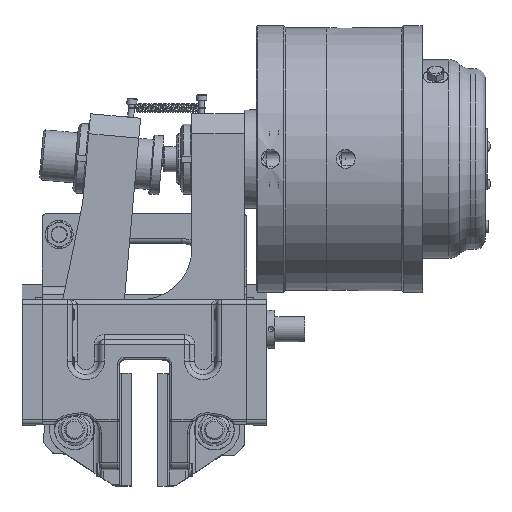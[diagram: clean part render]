
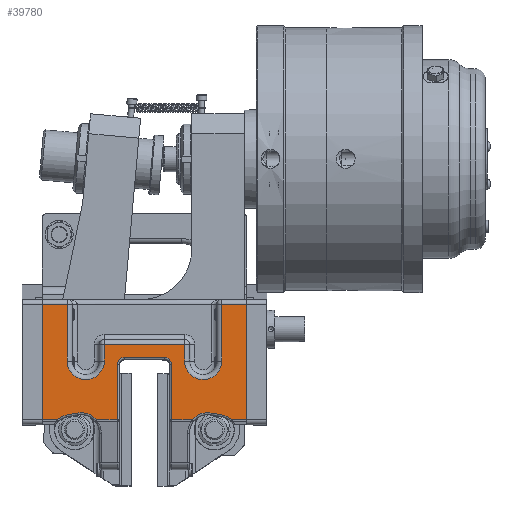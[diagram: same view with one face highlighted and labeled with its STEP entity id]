
A CAD part, top view. The second image highlights one B-rep face of the part: STEP entity #39780.
In plain terms, the highlighted planar face has unit normal (0, 0, 1).
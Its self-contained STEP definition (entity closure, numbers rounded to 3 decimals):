
#5312=LINE('',#69459,#7854);
#5313=LINE('',#69533,#7855);
#5315=LINE('',#69538,#7857);
#5316=LINE('',#69540,#7858);
#5317=LINE('',#69544,#7859);
#5318=LINE('',#69548,#7860);
#5319=LINE('',#69550,#7861);
#5320=LINE('',#69554,#7862);
#5321=LINE('',#69558,#7863);
#5322=LINE('',#69560,#7864);
#5323=LINE('',#69562,#7865);
#5324=LINE('',#69564,#7866);
#5325=LINE('',#69568,#7867);
#5326=LINE('',#69570,#7868);
#5327=LINE('',#69572,#7869);
#5328=LINE('',#69576,#7870);
#5329=LINE('',#69578,#7871);
#5330=LINE('',#69579,#7872);
#7854=VECTOR('',#50198,10.);
#7855=VECTOR('',#50215,10.);
#7857=VECTOR('',#50221,10.);
#7858=VECTOR('',#50222,10.);
#7859=VECTOR('',#50225,10.);
#7860=VECTOR('',#50228,10.);
#7861=VECTOR('',#50229,10.);
#7862=VECTOR('',#50232,10.);
#7863=VECTOR('',#50235,10.);
#7864=VECTOR('',#50236,10.);
#7865=VECTOR('',#50237,5.);
#7866=VECTOR('',#50238,10.);
#7867=VECTOR('',#50241,10.);
#7868=VECTOR('',#50242,10.);
#7869=VECTOR('',#50243,10.);
#7870=VECTOR('',#50246,10.);
#7871=VECTOR('',#50247,5.);
#7872=VECTOR('',#50248,10.);
#10124=FACE_OUTER_BOUND('',#12432,.T.);
#12432=EDGE_LOOP('',(#30587,#30588,#30589,#30590,#30591,#30592,#30593,#30594,
#30595,#30596,#30597,#30598,#30599,#30600,#30601,#30602,#30603,#30604,#30605,
#30606,#30607,#30608,#30609,#30610,#30611,#30612));
#14979=CIRCLE('',#42879,20.);
#14983=CIRCLE('',#42885,18.);
#14986=CIRCLE('',#42892,7.);
#14987=CIRCLE('',#42893,7.);
#14988=CIRCLE('',#42894,20.);
#14989=CIRCLE('',#42895,18.);
#14990=CIRCLE('',#42896,18.5);
#14991=CIRCLE('',#42897,18.5);
#18052=VERTEX_POINT('',#69437);
#18054=VERTEX_POINT('',#69449);
#18056=VERTEX_POINT('',#69455);
#18058=VERTEX_POINT('',#69461);
#18064=VERTEX_POINT('',#69532);
#18065=VERTEX_POINT('',#69537);
#18066=VERTEX_POINT('',#69539);
#18067=VERTEX_POINT('',#69541);
#18068=VERTEX_POINT('',#69543);
#18069=VERTEX_POINT('',#69545);
#18070=VERTEX_POINT('',#69547);
#18071=VERTEX_POINT('',#69549);
#18072=VERTEX_POINT('',#69551);
#18073=VERTEX_POINT('',#69553);
#18074=VERTEX_POINT('',#69555);
#18075=VERTEX_POINT('',#69557);
#18076=VERTEX_POINT('',#69559);
#18077=VERTEX_POINT('',#69561);
#18078=VERTEX_POINT('',#69563);
#18079=VERTEX_POINT('',#69565);
#18080=VERTEX_POINT('',#69567);
#18081=VERTEX_POINT('',#69569);
#18082=VERTEX_POINT('',#69571);
#18083=VERTEX_POINT('',#69573);
#18084=VERTEX_POINT('',#69575);
#18085=VERTEX_POINT('',#69577);
#22718=EDGE_CURVE('',#18052,#18054,#14979,.T.);
#22721=EDGE_CURVE('',#18054,#18056,#5312,.T.);
#22724=EDGE_CURVE('',#18056,#18058,#14983,.T.);
#22731=EDGE_CURVE('',#18058,#18064,#5313,.T.);
#22734=EDGE_CURVE('',#18065,#18052,#5315,.T.);
#22735=EDGE_CURVE('',#18066,#18065,#5316,.T.);
#22736=EDGE_CURVE('',#18067,#18066,#14986,.T.);
#22737=EDGE_CURVE('',#18068,#18067,#5317,.T.);
#22738=EDGE_CURVE('',#18069,#18068,#14987,.T.);
#22739=EDGE_CURVE('',#18070,#18069,#5318,.T.);
#22740=EDGE_CURVE('',#18071,#18070,#5319,.T.);
#22741=EDGE_CURVE('',#18072,#18071,#14988,.T.);
#22742=EDGE_CURVE('',#18073,#18072,#5320,.T.);
#22743=EDGE_CURVE('',#18074,#18073,#14989,.T.);
#22744=EDGE_CURVE('',#18075,#18074,#5321,.T.);
#22745=EDGE_CURVE('',#18076,#18075,#5322,.T.);
#22746=EDGE_CURVE('',#18077,#18076,#5323,.T.);
#22747=EDGE_CURVE('',#18078,#18077,#5324,.T.);
#22748=EDGE_CURVE('',#18079,#18078,#14990,.T.);
#22749=EDGE_CURVE('',#18080,#18079,#5325,.T.);
#22750=EDGE_CURVE('',#18081,#18080,#5326,.T.);
#22751=EDGE_CURVE('',#18082,#18081,#5327,.T.);
#22752=EDGE_CURVE('',#18083,#18082,#14991,.T.);
#22753=EDGE_CURVE('',#18084,#18083,#5328,.T.);
#22754=EDGE_CURVE('',#18085,#18084,#5329,.T.);
#22755=EDGE_CURVE('',#18064,#18085,#5330,.T.);
#30587=ORIENTED_EDGE('',*,*,#22724,.F.);
#30588=ORIENTED_EDGE('',*,*,#22721,.F.);
#30589=ORIENTED_EDGE('',*,*,#22718,.F.);
#30590=ORIENTED_EDGE('',*,*,#22734,.F.);
#30591=ORIENTED_EDGE('',*,*,#22735,.F.);
#30592=ORIENTED_EDGE('',*,*,#22736,.F.);
#30593=ORIENTED_EDGE('',*,*,#22737,.F.);
#30594=ORIENTED_EDGE('',*,*,#22738,.F.);
#30595=ORIENTED_EDGE('',*,*,#22739,.F.);
#30596=ORIENTED_EDGE('',*,*,#22740,.F.);
#30597=ORIENTED_EDGE('',*,*,#22741,.F.);
#30598=ORIENTED_EDGE('',*,*,#22742,.F.);
#30599=ORIENTED_EDGE('',*,*,#22743,.F.);
#30600=ORIENTED_EDGE('',*,*,#22744,.F.);
#30601=ORIENTED_EDGE('',*,*,#22745,.F.);
#30602=ORIENTED_EDGE('',*,*,#22746,.F.);
#30603=ORIENTED_EDGE('',*,*,#22747,.F.);
#30604=ORIENTED_EDGE('',*,*,#22748,.F.);
#30605=ORIENTED_EDGE('',*,*,#22749,.F.);
#30606=ORIENTED_EDGE('',*,*,#22750,.F.);
#30607=ORIENTED_EDGE('',*,*,#22751,.F.);
#30608=ORIENTED_EDGE('',*,*,#22752,.F.);
#30609=ORIENTED_EDGE('',*,*,#22753,.F.);
#30610=ORIENTED_EDGE('',*,*,#22754,.F.);
#30611=ORIENTED_EDGE('',*,*,#22755,.F.);
#30612=ORIENTED_EDGE('',*,*,#22731,.F.);
#38314=PLANE('',#42891);
#39780=ADVANCED_FACE('',(#10124),#38314,.T.);
#42879=AXIS2_PLACEMENT_3D('',#69453,#50191,#50192);
#42885=AXIS2_PLACEMENT_3D('',#69465,#50205,#50206);
#42891=AXIS2_PLACEMENT_3D('',#69536,#50219,#50220);
#42892=AXIS2_PLACEMENT_3D('',#69542,#50223,#50224);
#42893=AXIS2_PLACEMENT_3D('',#69546,#50226,#50227);
#42894=AXIS2_PLACEMENT_3D('',#69552,#50230,#50231);
#42895=AXIS2_PLACEMENT_3D('',#69556,#50233,#50234);
#42896=AXIS2_PLACEMENT_3D('',#69566,#50239,#50240);
#42897=AXIS2_PLACEMENT_3D('',#69574,#50244,#50245);
#50191=DIRECTION('center_axis',(0.,0.,
1.));
#50192=DIRECTION('ref_axis',(0.29,0.957,0.));
#50198=DIRECTION('',(-0.985,-0.174,0.));
#50205=DIRECTION('center_axis',(0.,0.,
1.));
#50206=DIRECTION('ref_axis',(-0.388,0.922,0.));
#50215=DIRECTION('',(-1.,0.,0.));
#50219=DIRECTION('center_axis',(0.,0.,
1.));
#50220=DIRECTION('ref_axis',(1.,0.,0.));
#50221=DIRECTION('',(-1.,0.,0.));
#50222=DIRECTION('',(0.,-1.,0.));
#50223=DIRECTION('center_axis',(0.,0.,
1.));
#50224=DIRECTION('ref_axis',(-0.707,0.707,0.));
#50225=DIRECTION('',(-1.,0.,0.));
#50226=DIRECTION('center_axis',(0.,0.,
1.));
#50227=DIRECTION('ref_axis',(0.707,0.707,0.));
#50228=DIRECTION('',(0.,1.,0.));
#50229=DIRECTION('',(-1.,0.,0.));
#50230=DIRECTION('center_axis',(0.,0.,
1.));
#50231=DIRECTION('ref_axis',(-0.29,0.957,0.));
#50232=DIRECTION('',(-0.985,0.174,0.));
#50233=DIRECTION('center_axis',(0.,0.,
1.));
#50234=DIRECTION('ref_axis',(0.388,0.922,0.));
#50235=DIRECTION('',(-1.,0.,0.));
#50236=DIRECTION('',(0.,-1.,0.));
#50237=DIRECTION('',(1.,0.,0.));
#50238=DIRECTION('',(0.,1.,0.));
#50239=DIRECTION('center_axis',(0.,0.,
1.));
#50240=DIRECTION('ref_axis',(0.,-1.,0.));
#50241=DIRECTION('',(0.,-1.,0.));
#50242=DIRECTION('',(1.,0.,0.));
#50243=DIRECTION('',(0.,1.,0.));
#50244=DIRECTION('center_axis',(0.,0.,
1.));
#50245=DIRECTION('ref_axis',(0.,-1.,0.));
#50246=DIRECTION('',(0.,-1.,0.));
#50247=DIRECTION('',(1.,0.,0.));
#50248=DIRECTION('',(0.,1.,0.));
#69437=CARTESIAN_POINT('',(-47.801,50.,285.));
#69449=CARTESIAN_POINT('',(-66.478,56.695,285.));
#69453=CARTESIAN_POINT('Origin',(-63.,37.,285.));
#69455=CARTESIAN_POINT('',(-77.63,54.726,285.));
#69459=CARTESIAN_POINT('',(-36.958,61.909,285.));
#69461=CARTESIAN_POINT('',(-86.95,50.,285.));
#69465=CARTESIAN_POINT('Origin',(-74.5,37.,285.));
#69532=CARTESIAN_POINT('',(-102.,50.,285.));
#69533=CARTESIAN_POINT('',(-102.,50.,285.));
#69536=CARTESIAN_POINT('Origin',(0.,90.129,
285.));
#69537=CARTESIAN_POINT('',(-27.,50.,285.));
#69538=CARTESIAN_POINT('',(-102.,50.,285.));
#69539=CARTESIAN_POINT('',(-27.,105.,285.));
#69540=CARTESIAN_POINT('',(-27.,45.065,285.));
#69541=CARTESIAN_POINT('',(-20.,112.,285.));
#69542=CARTESIAN_POINT('Origin',(-20.,105.,285.));
#69543=CARTESIAN_POINT('',(20.,112.,285.));
#69544=CARTESIAN_POINT('',(-10.,112.,285.));
#69545=CARTESIAN_POINT('',(27.,105.,285.));
#69546=CARTESIAN_POINT('Origin',(20.,105.,285.));
#69547=CARTESIAN_POINT('',(27.,50.,285.));
#69548=CARTESIAN_POINT('',(27.,97.565,285.));
#69549=CARTESIAN_POINT('',(47.801,50.,285.));
#69550=CARTESIAN_POINT('',(-102.,50.,285.));
#69551=CARTESIAN_POINT('',(66.478,56.695,285.));
#69552=CARTESIAN_POINT('Origin',(63.,37.,285.));
#69553=CARTESIAN_POINT('',(77.63,54.726,285.));
#69554=CARTESIAN_POINT('',(31.381,62.893,285.));
#69555=CARTESIAN_POINT('',(86.95,50.,285.));
#69556=CARTESIAN_POINT('Origin',(74.5,37.,285.));
#69557=CARTESIAN_POINT('',(102.,50.,285.));
#69558=CARTESIAN_POINT('',(-102.,50.,285.));
#69559=CARTESIAN_POINT('',(102.,165.,285.));
#69560=CARTESIAN_POINT('',(102.,165.,285.));
#69561=CARTESIAN_POINT('',(77.,165.,285.));
#69562=CARTESIAN_POINT('',(0.,165.,285.));
#69563=CARTESIAN_POINT('',(77.,108.5,285.));
#69564=CARTESIAN_POINT('',(77.,127.565,285.));
#69565=CARTESIAN_POINT('',(40.,108.5,285.));
#69566=CARTESIAN_POINT('Origin',(58.5,108.5,285.));
#69567=CARTESIAN_POINT('',(40.,125.,285.));
#69568=CARTESIAN_POINT('',(40.,99.315,285.));
#69569=CARTESIAN_POINT('',(-40.,125.,285.));
#69570=CARTESIAN_POINT('',(20.,125.,285.));
#69571=CARTESIAN_POINT('',(-40.,108.5,285.));
#69572=CARTESIAN_POINT('',(-40.,107.565,285.));
#69573=CARTESIAN_POINT('',(-77.,108.5,285.));
#69574=CARTESIAN_POINT('Origin',(-58.5,108.5,285.));
#69575=CARTESIAN_POINT('',(-77.,165.,285.));
#69576=CARTESIAN_POINT('',(-77.,99.315,285.));
#69577=CARTESIAN_POINT('',(-102.,165.,285.));
#69578=CARTESIAN_POINT('',(102.,165.,285.));
#69579=CARTESIAN_POINT('',(-102.,165.,285.));
